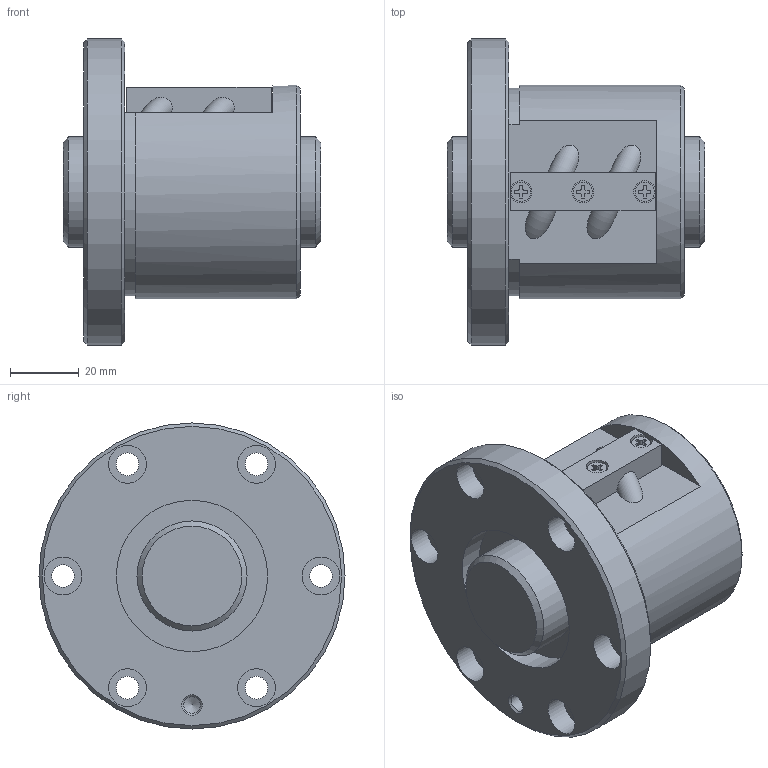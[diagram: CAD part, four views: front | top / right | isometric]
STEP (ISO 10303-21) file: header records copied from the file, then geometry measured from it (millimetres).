
FILE_DESCRIPTION(/* description */ ('STEP AP203'),/* implementation_level */ '2;1');
FILE_NAME(/* name */ 'SBN3206V-5G0+75LC0(0000)',/* time_stamp */ '2024-05-28T10:44:59+02:00',/* author */ ('License CC BY-ND 4.0'),/* organization */ ('CADENAS'),/* preprocessor_version */ 'ST-DEVELOPER v19.3',/* originating_system */ 'PARTsolutions',/* authorisation */ ' ');
FILE_SCHEMA (('CONFIG_CONTROL_DESIGN','PROCESS_PLANNING_SCHEMA'));
Length unit declared in the file: millimetre
Products named in the file (3): SBN3206V-5G0+75LC0(0000); N010SBN3206V-50Shaft; N00SBN3206V-5Nut
Assembly tree (2 placements, depth 2):
  SBN3206V-5G0+75LC0(0000)
    N010SBN3206V-50Shaft
    N00SBN3206V-5Nut
Bounding box: 75 x 89 x 89 mm (x, y, z)
Volume: 216276.4 mm3; surface area: 42917.4 mm2
Topology: 2 solids, 2 shells, 121 faces, 285 edges, 188 vertices
Faces by surface type: plane 69, cylinder 41, cone 7, torus 4
Full cylindrical faces by diameter (mm): 4.8 x3, 4.917 x1, 5.6 x3, 6.4 x1, 6.6 x6, 11 x6, 32 x2, 44 x2, 62 x1, 89 x1
Entity records: 3467 total; most frequent: CARTESIAN_POINT 647, DIRECTION 578, ORIENTED_EDGE 498, EDGE_CURVE 249, AXIS2_PLACEMENT_3D 213, FACE_BOUND 189, EDGE_LOOP 188, VERTEX_POINT 186
